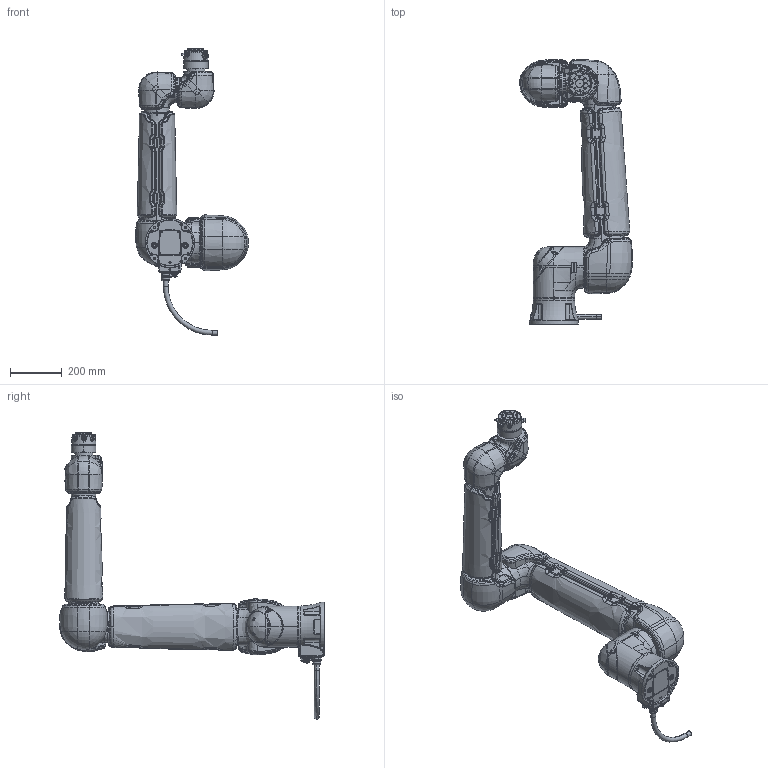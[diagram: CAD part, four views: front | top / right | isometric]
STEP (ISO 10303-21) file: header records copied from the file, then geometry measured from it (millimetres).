
FILE_DESCRIPTION(/* description */ ('Unknown'),/* implementation_level */ '2;1');
FILE_NAME(/* name */ 'COBOTTA PRO 本体 フルカバー',/* time_stamp */ '2025-09-15T14:21:03+09:00',/* author */ ('Unknown'),/* organization */ ('Unknown'),/* preprocessor_version */ 'ST-DEVELOPER v19.4',/* originating_system */ 'Solid Edge',/* authorisation */ 'Unknown');
FILE_SCHEMA (('AUTOMOTIVE_DESIGN {1 0 10303 214 3 1 1}'));
Products named in the file (8): COBOTTA PRO 本体 フルカバー; 1300_MODEL_AIR-C001_1; 1300_MODEL-C002_1; 1300_SOFTPAD-C003_1; 1300_SOFTPAD-C004_1; 1300_SOFTPAD-C005_1; 1300_SOFTPAD-C006_1; 1300_MODEL_AIR-C007_1
Assembly tree (7 placements, depth 2):
  COBOTTA PRO 本体 フルカバー
    1300_MODEL_AIR-C001_1
    1300_MODEL-C002_1
    1300_SOFTPAD-C003_1
    1300_SOFTPAD-C004_1
    1300_SOFTPAD-C005_1
    1300_SOFTPAD-C006_1
    1300_MODEL_AIR-C007_1
Bounding box: 436.85 x 1022.4 x 1106.6 mm (x, y, z)
Volume: 44277323.5 mm3; surface area: 1571471.6 mm2
Topology: 7 solids, 7 shells, 5181 faces, 12587 edges, 7566 vertices
Faces by surface type: bspline 1628, cylinder 1364, plane 1267, torus 466, cone 383, sphere 73
Entity records: 275325 total; most frequent: CARTESIAN_POINT 172081, ORIENTED_EDGE 25100, DIRECTION 15470, EDGE_CURVE 12550, VERTEX_POINT 7566, B_SPLINE_CURVE_WITH_KNOTS 6763, AXIS2_PLACEMENT_3D 6122, EDGE_LOOP 5418
